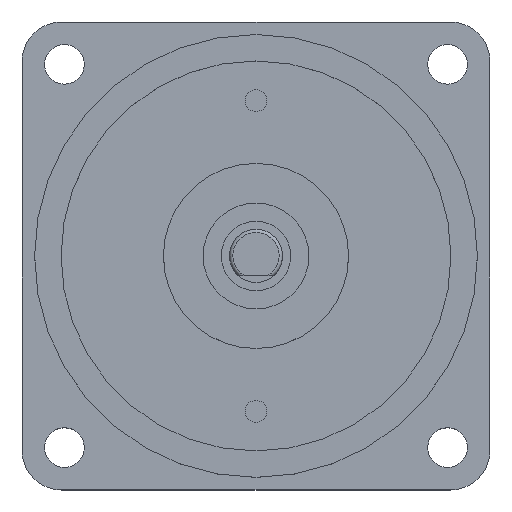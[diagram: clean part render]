
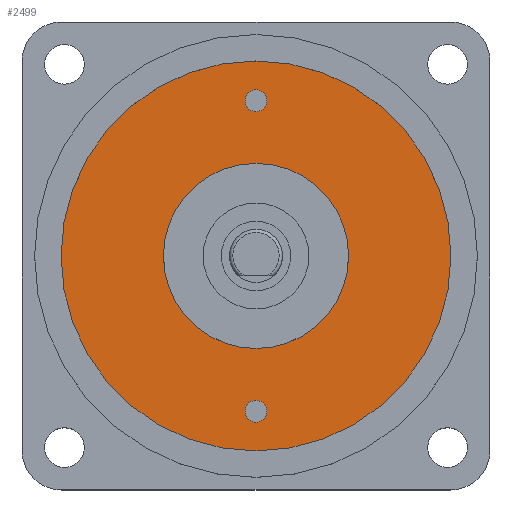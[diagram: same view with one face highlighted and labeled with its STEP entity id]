
A CAD part, top view. The second image highlights one B-rep face of the part: STEP entity #2499.
In plain terms, the highlighted planar face has unit normal (0, 0, 1) as drawn and (0, 1, 0) by its records, which use the part's own axes.
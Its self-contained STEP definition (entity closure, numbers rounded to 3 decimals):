
#32 = PLANE ( 'NONE',  #8043 ) ;
#112 = CARTESIAN_POINT ( 'NONE',  ( 0., 10.3, -21.85 ) ) ;
#192 = CIRCLE ( 'NONE', #4756, 14. ) ;
#289 = EDGE_CURVE ( 'NONE', #5316, #2326, #1608, .T. ) ;
#419 = ORIENTED_EDGE ( 'NONE', *, *, #5575, .T. ) ;
#499 = AXIS2_PLACEMENT_3D ( 'NONE', #4413, #4451, #6879 ) ;
#604 = VERTEX_POINT ( 'NONE', #5473 ) ;
#740 = AXIS2_PLACEMENT_3D ( 'NONE', #7128, #4523, #7210 ) ;
#921 = EDGE_CURVE ( 'NONE', #6368, #604, #6039, .T. ) ;
#959 = DIRECTION ( 'NONE',  ( 0., -1., 0. ) ) ;
#1083 = EDGE_CURVE ( 'NONE', #4870, #1266, #192, .T. ) ;
#1266 = VERTEX_POINT ( 'NONE', #2711 ) ;
#1392 = CARTESIAN_POINT ( 'NONE',  ( 0., 10.3, 0. ) ) ;
#1423 = CIRCLE ( 'NONE', #3033, 1.65 ) ;
#1478 = FACE_BOUND ( 'NONE', #5668, .T. ) ;
#1546 = VERTEX_POINT ( 'NONE', #3279 ) ;
#1578 = EDGE_CURVE ( 'NONE', #1266, #4870, #4865, .T. ) ;
#1608 = CIRCLE ( 'NONE', #3769, 1.65 ) ;
#1966 = ORIENTED_EDGE ( 'NONE', *, *, #4995, .T. ) ;
#1980 = EDGE_LOOP ( 'NONE', ( #419, #4459 ) ) ;
#2005 = EDGE_CURVE ( 'NONE', #604, #6368, #1423, .T. ) ;
#2012 = CARTESIAN_POINT ( 'NONE',  ( 0., 10.3, 23.5 ) ) ;
#2033 = FACE_BOUND ( 'NONE', #1980, .T. ) ;
#2067 = DIRECTION ( 'NONE',  ( 0., 0., 1. ) ) ;
#2113 = CIRCLE ( 'NONE', #8320, 29.5 ) ;
#2326 = VERTEX_POINT ( 'NONE', #6047 ) ;
#2499 = ADVANCED_FACE ( 'NONE', ( #7283, #5240, #2033, #1478 ), #32, .T. ) ;
#2581 = DIRECTION ( 'NONE',  ( 0., 0., 1. ) ) ;
#2689 = CARTESIAN_POINT ( 'NONE',  ( 0., 10.3, -29.5 ) ) ;
#2711 = CARTESIAN_POINT ( 'NONE',  ( 0., 10.3, -14. ) ) ;
#2865 = CARTESIAN_POINT ( 'NONE',  ( 0., 10.3, 0. ) ) ;
#3033 = AXIS2_PLACEMENT_3D ( 'NONE', #2012, #4573, #7175 ) ;
#3279 = CARTESIAN_POINT ( 'NONE',  ( 0., 10.3, 29.5 ) ) ;
#3464 = ORIENTED_EDGE ( 'NONE', *, *, #7949, .T. ) ;
#3568 = ORIENTED_EDGE ( 'NONE', *, *, #2005, .T. ) ;
#3589 = CIRCLE ( 'NONE', #499, 1.65 ) ;
#3769 = AXIS2_PLACEMENT_3D ( 'NONE', #4293, #959, #6237 ) ;
#3920 = ORIENTED_EDGE ( 'NONE', *, *, #1578, .T. ) ;
#3957 = ORIENTED_EDGE ( 'NONE', *, *, #921, .T. ) ;
#4120 = CIRCLE ( 'NONE', #4395, 29.5 ) ;
#4266 = DIRECTION ( 'NONE',  ( 0., 0., 1. ) ) ;
#4293 = CARTESIAN_POINT ( 'NONE',  ( 0., 10.3, -23.5 ) ) ;
#4395 = AXIS2_PLACEMENT_3D ( 'NONE', #6392, #7176, #6482 ) ;
#4413 = CARTESIAN_POINT ( 'NONE',  ( 0., 10.3, -23.5 ) ) ;
#4451 = DIRECTION ( 'NONE',  ( 0., -1., 0. ) ) ;
#4459 = ORIENTED_EDGE ( 'NONE', *, *, #289, .T. ) ;
#4523 = DIRECTION ( 'NONE',  ( 0., -1., 0. ) ) ;
#4573 = DIRECTION ( 'NONE',  ( 0., -1., 0. ) ) ;
#4756 = AXIS2_PLACEMENT_3D ( 'NONE', #5421, #6777, #4266 ) ;
#4847 = DIRECTION ( 'NONE',  ( 0., 0., 1. ) ) ;
#4865 = CIRCLE ( 'NONE', #7044, 14. ) ;
#4870 = VERTEX_POINT ( 'NONE', #6626 ) ;
#4995 = EDGE_CURVE ( 'NONE', #1546, #5731, #2113, .T. ) ;
#5189 = DIRECTION ( 'NONE',  ( 0., 1., 0. ) ) ;
#5240 = FACE_BOUND ( 'NONE', #6717, .T. ) ;
#5316 = VERTEX_POINT ( 'NONE', #112 ) ;
#5421 = CARTESIAN_POINT ( 'NONE',  ( 0., 10.3, 0. ) ) ;
#5437 = CARTESIAN_POINT ( 'NONE',  ( 0., 10.3, 21.85 ) ) ;
#5473 = CARTESIAN_POINT ( 'NONE',  ( 0., 10.3, 25.15 ) ) ;
#5575 = EDGE_CURVE ( 'NONE', #2326, #5316, #3589, .T. ) ;
#5668 = EDGE_LOOP ( 'NONE', ( #3957, #3568 ) ) ;
#5731 = VERTEX_POINT ( 'NONE', #2689 ) ;
#6039 = CIRCLE ( 'NONE', #740, 1.65 ) ;
#6047 = CARTESIAN_POINT ( 'NONE',  ( 0., 10.3, -25.15 ) ) ;
#6237 = DIRECTION ( 'NONE',  ( 0., 0., -1. ) ) ;
#6368 = VERTEX_POINT ( 'NONE', #5437 ) ;
#6392 = CARTESIAN_POINT ( 'NONE',  ( 0., 10.3, 0. ) ) ;
#6482 = DIRECTION ( 'NONE',  ( 0., 0., 1. ) ) ;
#6626 = CARTESIAN_POINT ( 'NONE',  ( 0., 10.3, 14. ) ) ;
#6717 = EDGE_LOOP ( 'NONE', ( #7820, #3920 ) ) ;
#6777 = DIRECTION ( 'NONE',  ( 0., -1., 0. ) ) ;
#6837 = DIRECTION ( 'NONE',  ( 0., 1., 0. ) ) ;
#6879 = DIRECTION ( 'NONE',  ( 0., 0., -1. ) ) ;
#7044 = AXIS2_PLACEMENT_3D ( 'NONE', #7733, #7099, #2067 ) ;
#7099 = DIRECTION ( 'NONE',  ( 0., -1., 0. ) ) ;
#7128 = CARTESIAN_POINT ( 'NONE',  ( 0., 10.3, 23.5 ) ) ;
#7175 = DIRECTION ( 'NONE',  ( 0., 0., -1. ) ) ;
#7176 = DIRECTION ( 'NONE',  ( 0., 1., 0. ) ) ;
#7210 = DIRECTION ( 'NONE',  ( 0., 0., -1. ) ) ;
#7283 = FACE_OUTER_BOUND ( 'NONE', #7432, .T. ) ;
#7432 = EDGE_LOOP ( 'NONE', ( #1966, #3464 ) ) ;
#7733 = CARTESIAN_POINT ( 'NONE',  ( 0., 10.3, 0. ) ) ;
#7820 = ORIENTED_EDGE ( 'NONE', *, *, #1083, .T. ) ;
#7949 = EDGE_CURVE ( 'NONE', #5731, #1546, #4120, .T. ) ;
#8043 = AXIS2_PLACEMENT_3D ( 'NONE', #1392, #5189, #2581 ) ;
#8320 = AXIS2_PLACEMENT_3D ( 'NONE', #2865, #6837, #4847 ) ;
